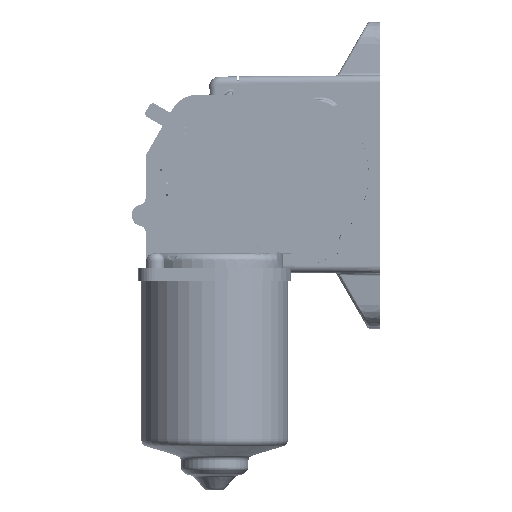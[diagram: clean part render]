
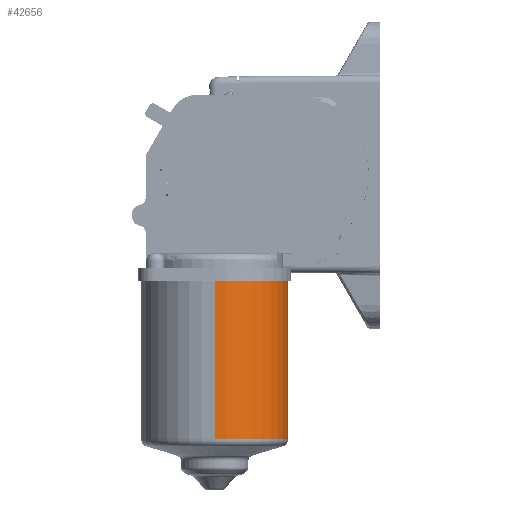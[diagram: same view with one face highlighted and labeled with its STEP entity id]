
A CAD part, top view. The second image highlights one B-rep face of the part: STEP entity #42656.
In plain terms, the highlighted cylindrical face has radius 30.3 mm (diameter 60.6 mm), a partial arc.
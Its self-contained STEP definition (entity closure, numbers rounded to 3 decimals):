
#3540 = EDGE_CURVE ( 'NONE', #99893, #43814, #28233, .T. ) ;
#7887 = FACE_OUTER_BOUND ( 'NONE', #114646, .T. ) ;
#8198 = DIRECTION ( 'NONE',  ( 0., 0., 1. ) ) ;
#10359 = DIRECTION ( 'NONE',  ( 0., 1., 0. ) ) ;
#23583 = EDGE_CURVE ( 'NONE', #135734, #146935, #73704, .T. ) ;
#28233 = LINE ( 'NONE', #92059, #121709 ) ;
#34147 = CARTESIAN_POINT ( 'NONE',  ( -23.859, -61.947, 8.245 ) ) ;
#38444 = CIRCLE ( 'NONE', #101275, 30.3 ) ;
#42598 = DIRECTION ( 'NONE',  ( 0., 1., 0. ) ) ;
#42656 = ADVANCED_FACE ( 'NONE', ( #7887 ), #135175, .T. ) ;
#43814 = VERTEX_POINT ( 'NONE', #136913 ) ;
#46327 = CARTESIAN_POINT ( 'NONE',  ( -23.859, -61.947, 38.545 ) ) ;
#59105 = DIRECTION ( 'NONE',  ( 0., 0., -1. ) ) ;
#67912 = ORIENTED_EDGE ( 'NONE', *, *, #3540, .T. ) ;
#73704 = LINE ( 'NONE', #86554, #103451 ) ;
#85757 = CARTESIAN_POINT ( 'NONE',  ( -23.859, 3.635, 68.845 ) ) ;
#86554 = CARTESIAN_POINT ( 'NONE',  ( -23.859, 3.635, 68.845 ) ) ;
#89516 = ORIENTED_EDGE ( 'NONE', *, *, #23583, .F. ) ;
#90243 = CARTESIAN_POINT ( 'NONE',  ( -23.859, -61.947, 68.845 ) ) ;
#92059 = CARTESIAN_POINT ( 'NONE',  ( -23.859, 3.635, 8.245 ) ) ;
#99893 = VERTEX_POINT ( 'NONE', #34147 ) ;
#101275 = AXIS2_PLACEMENT_3D ( 'NONE', #46327, #135245, #59105 ) ;
#103451 = VECTOR ( 'NONE', #10359, 1000. ) ;
#109923 = EDGE_CURVE ( 'NONE', #135734, #99893, #38444, .T. ) ;
#114646 = EDGE_LOOP ( 'NONE', ( #139555, #67912, #139721, #89516 ) ) ;
#118805 = CARTESIAN_POINT ( 'NONE',  ( -23.859, 3.635, 38.545 ) ) ;
#121709 = VECTOR ( 'NONE', #156043, 1000. ) ;
#131542 = DIRECTION ( 'NONE',  ( 0., 0., 1. ) ) ;
#135175 = CYLINDRICAL_SURFACE ( 'NONE', #152589, 30.3 ) ;
#135245 = DIRECTION ( 'NONE',  ( 0., 1., 0. ) ) ;
#135422 = EDGE_CURVE ( 'NONE', #146935, #43814, #165146, .T. ) ;
#135734 = VERTEX_POINT ( 'NONE', #90243 ) ;
#135920 = AXIS2_PLACEMENT_3D ( 'NONE', #118805, #42598, #131542 ) ;
#136913 = CARTESIAN_POINT ( 'NONE',  ( -23.859, 3.635, 8.245 ) ) ;
#139555 = ORIENTED_EDGE ( 'NONE', *, *, #109923, .T. ) ;
#139721 = ORIENTED_EDGE ( 'NONE', *, *, #135422, .F. ) ;
#146935 = VERTEX_POINT ( 'NONE', #85757 ) ;
#147807 = DIRECTION ( 'NONE',  ( 0., 1., 0. ) ) ;
#152589 = AXIS2_PLACEMENT_3D ( 'NONE', #160653, #147807, #8198 ) ;
#156043 = DIRECTION ( 'NONE',  ( 0., 1., 0. ) ) ;
#160653 = CARTESIAN_POINT ( 'NONE',  ( -23.859, 3.635, 38.545 ) ) ;
#165146 = CIRCLE ( 'NONE', #135920, 30.3 ) ;
